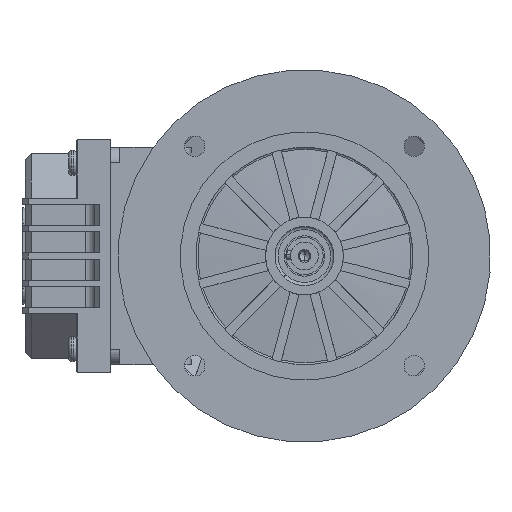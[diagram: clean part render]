
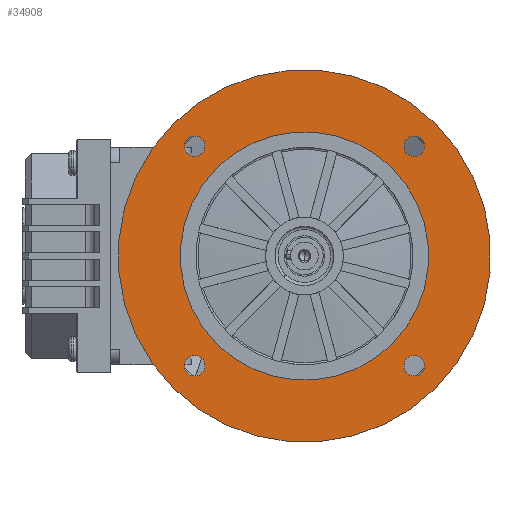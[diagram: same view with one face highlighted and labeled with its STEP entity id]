
A CAD part, left-side view. The second image highlights one B-rep face of the part: STEP entity #34908.
In plain terms, the highlighted planar face has unit normal (-1, 0, 0) as drawn and (0, -1, 0) by its records, which use the part's own axes.
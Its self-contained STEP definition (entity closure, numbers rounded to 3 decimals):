
#793 = EDGE_LOOP ( 'NONE', ( #22800, #13018 ) ) ;
#1058 = AXIS2_PLACEMENT_3D ( 'NONE', #78446, #39114, #85018 ) ;
#1369 = ORIENTED_EDGE ( 'NONE', *, *, #7743, .F. ) ;
#1709 = EDGE_CURVE ( 'NONE', #53227, #16167, #5702, .T. ) ;
#2034 = CARTESIAN_POINT ( 'NONE',  ( 50., 3., -3.3 ) ) ;
#2039 = FACE_OUTER_BOUND ( 'NONE', #38078, .T. ) ;
#2469 = DIRECTION ( 'NONE',  ( 0., -1., 0. ) ) ;
#2538 = CARTESIAN_POINT ( 'NONE',  ( 0., 3., -50. ) ) ;
#4644 = DIRECTION ( 'NONE',  ( 0., -1., 0. ) ) ;
#5702 = CIRCLE ( 'NONE', #52868, 3.3 ) ;
#6057 = CARTESIAN_POINT ( 'NONE',  ( 40., 3., 0. ) ) ;
#6866 = CARTESIAN_POINT ( 'NONE',  ( 0., 3., 40. ) ) ;
#7010 = DIRECTION ( 'NONE',  ( 0., -1., 0. ) ) ;
#7604 = CIRCLE ( 'NONE', #78475, 3.3 ) ;
#7743 = EDGE_CURVE ( 'NONE', #57872, #16473, #32573, .T. ) ;
#9166 = DIRECTION ( 'NONE',  ( 0., 0., -1. ) ) ;
#9351 = DIRECTION ( 'NONE',  ( 0., -1., 0. ) ) ;
#9832 = CARTESIAN_POINT ( 'NONE',  ( 0., 3., 0. ) ) ;
#11298 = AXIS2_PLACEMENT_3D ( 'NONE', #6057, #18973, #51978 ) ;
#11768 = EDGE_CURVE ( 'NONE', #77662, #58203, #81244, .T. ) ;
#12950 = AXIS2_PLACEMENT_3D ( 'NONE', #59618, #20215, #66254 ) ;
#12983 = CARTESIAN_POINT ( 'NONE',  ( 50., 3., 0. ) ) ;
#13018 = ORIENTED_EDGE ( 'NONE', *, *, #66860, .F. ) ;
#13069 = VERTEX_POINT ( 'NONE', #44481 ) ;
#14331 = AXIS2_PLACEMENT_3D ( 'NONE', #62767, #23354, #69372 ) ;
#14721 = CARTESIAN_POINT ( 'NONE',  ( 0., 3., -60. ) ) ;
#14911 = ORIENTED_EDGE ( 'NONE', *, *, #11768, .T. ) ;
#15467 = ORIENTED_EDGE ( 'NONE', *, *, #41176, .F. ) ;
#15843 = CARTESIAN_POINT ( 'NONE',  ( 50., 3., 3.3 ) ) ;
#16167 = VERTEX_POINT ( 'NONE', #2034 ) ;
#16402 = DIRECTION ( 'NONE',  ( 0., 0., -1. ) ) ;
#16473 = VERTEX_POINT ( 'NONE', #45063 ) ;
#18055 = ORIENTED_EDGE ( 'NONE', *, *, #39516, .F. ) ;
#18817 = CARTESIAN_POINT ( 'NONE',  ( 0., 3., -46.7 ) ) ;
#18973 = DIRECTION ( 'NONE',  ( 0., -1., 0. ) ) ;
#19478 = FACE_BOUND ( 'NONE', #793, .T. ) ;
#19537 = DIRECTION ( 'NONE',  ( 0., 0., -1. ) ) ;
#20215 = DIRECTION ( 'NONE',  ( 0., -1., 0. ) ) ;
#20256 = EDGE_LOOP ( 'NONE', ( #21705, #1369 ) ) ;
#21480 = EDGE_CURVE ( 'NONE', #85209, #54812, #38021, .T. ) ;
#21705 = ORIENTED_EDGE ( 'NONE', *, *, #68980, .F. ) ;
#21913 = CARTESIAN_POINT ( 'NONE',  ( -50., 3., -3.3 ) ) ;
#22437 = ORIENTED_EDGE ( 'NONE', *, *, #24587, .F. ) ;
#22800 = ORIENTED_EDGE ( 'NONE', *, *, #1709, .F. ) ;
#23318 = CIRCLE ( 'NONE', #37141, 40. ) ;
#23354 = DIRECTION ( 'NONE',  ( 0., -1., 0. ) ) ;
#24213 = CARTESIAN_POINT ( 'NONE',  ( 0., 3., 46.7 ) ) ;
#24587 = EDGE_CURVE ( 'NONE', #54812, #85209, #23318, .T. ) ;
#26677 = EDGE_CURVE ( 'NONE', #83564, #13069, #70228, .T. ) ;
#26749 = VERTEX_POINT ( 'NONE', #55678 ) ;
#27102 = CIRCLE ( 'NONE', #1058, 3.3 ) ;
#28976 = ORIENTED_EDGE ( 'NONE', *, *, #26677, .F. ) ;
#29821 = AXIS2_PLACEMENT_3D ( 'NONE', #9832, #55774, #16402 ) ;
#30782 = EDGE_LOOP ( 'NONE', ( #72912, #22437 ) ) ;
#32573 = CIRCLE ( 'NONE', #74146, 3.3 ) ;
#32737 = AXIS2_PLACEMENT_3D ( 'NONE', #2538, #48494, #9166 ) ;
#33029 = CIRCLE ( 'NONE', #12950, 3.3 ) ;
#33345 = CARTESIAN_POINT ( 'NONE',  ( 50., 3., 0. ) ) ;
#34908 = ADVANCED_FACE ( 'NONE', ( #71916, #52364, #19478, #37000, #2039, #34935 ), #84736, .T. ) ;
#34935 = FACE_BOUND ( 'NONE', #30782, .T. ) ;
#35392 = CARTESIAN_POINT ( 'NONE',  ( 0., 3., 60. ) ) ;
#36635 = CIRCLE ( 'NONE', #41896, 3.3 ) ;
#36975 = CARTESIAN_POINT ( 'NONE',  ( 0., 3., -50. ) ) ;
#37000 = FACE_BOUND ( 'NONE', #20256, .T. ) ;
#37141 = AXIS2_PLACEMENT_3D ( 'NONE', #48661, #9351, #55269 ) ;
#38021 = CIRCLE ( 'NONE', #14331, 40. ) ;
#38078 = EDGE_LOOP ( 'NONE', ( #77716, #14911 ) ) ;
#39114 = DIRECTION ( 'NONE',  ( 0., -1., 0. ) ) ;
#39516 = EDGE_CURVE ( 'NONE', #26749, #80006, #27102, .T. ) ;
#39963 = DIRECTION ( 'NONE',  ( 0., 0., -1. ) ) ;
#41176 = EDGE_CURVE ( 'NONE', #80006, #26749, #33029, .T. ) ;
#41826 = CARTESIAN_POINT ( 'NONE',  ( 0., 3., 50. ) ) ;
#41896 = AXIS2_PLACEMENT_3D ( 'NONE', #36975, #82931, #43600 ) ;
#43600 = DIRECTION ( 'NONE',  ( 0., 0., -1. ) ) ;
#44016 = CARTESIAN_POINT ( 'NONE',  ( 0., 3., 0. ) ) ;
#44481 = CARTESIAN_POINT ( 'NONE',  ( 0., 3., -53.3 ) ) ;
#45063 = CARTESIAN_POINT ( 'NONE',  ( 0., 3., 53.3 ) ) ;
#46382 = CARTESIAN_POINT ( 'NONE',  ( 0., 3., 50. ) ) ;
#47528 = CIRCLE ( 'NONE', #29821, 60. ) ;
#48205 = EDGE_LOOP ( 'NONE', ( #18055, #15467 ) ) ;
#48429 = DIRECTION ( 'NONE',  ( 0., 0., -1. ) ) ;
#48494 = DIRECTION ( 'NONE',  ( 0., -1., 0. ) ) ;
#48661 = CARTESIAN_POINT ( 'NONE',  ( 0., 3., 0. ) ) ;
#49181 = AXIS2_PLACEMENT_3D ( 'NONE', #12983, #58905, #19537 ) ;
#50578 = DIRECTION ( 'NONE',  ( 0., 0., -1. ) ) ;
#51978 = DIRECTION ( 'NONE',  ( 0., 0., -1. ) ) ;
#52364 = FACE_BOUND ( 'NONE', #53875, .T. ) ;
#52868 = AXIS2_PLACEMENT_3D ( 'NONE', #33345, #79314, #39963 ) ;
#52952 = DIRECTION ( 'NONE',  ( 0., 0., -1. ) ) ;
#53227 = VERTEX_POINT ( 'NONE', #15843 ) ;
#53875 = EDGE_LOOP ( 'NONE', ( #28976, #61607 ) ) ;
#54812 = VERTEX_POINT ( 'NONE', #6866 ) ;
#55022 = EDGE_CURVE ( 'NONE', #13069, #83564, #36635, .T. ) ;
#55269 = DIRECTION ( 'NONE',  ( 0., 0., -1. ) ) ;
#55678 = CARTESIAN_POINT ( 'NONE',  ( -50., 3., 3.3 ) ) ;
#55774 = DIRECTION ( 'NONE',  ( 0., -1., 0. ) ) ;
#57872 = VERTEX_POINT ( 'NONE', #24213 ) ;
#58203 = VERTEX_POINT ( 'NONE', #14721 ) ;
#58905 = DIRECTION ( 'NONE',  ( 0., -1., 0. ) ) ;
#59618 = CARTESIAN_POINT ( 'NONE',  ( -50., 3., 0. ) ) ;
#61607 = ORIENTED_EDGE ( 'NONE', *, *, #55022, .F. ) ;
#62767 = CARTESIAN_POINT ( 'NONE',  ( 0., 3., 0. ) ) ;
#66097 = AXIS2_PLACEMENT_3D ( 'NONE', #44016, #4644, #50578 ) ;
#66254 = DIRECTION ( 'NONE',  ( 0., 0., -1. ) ) ;
#66860 = EDGE_CURVE ( 'NONE', #16167, #53227, #82914, .T. ) ;
#68980 = EDGE_CURVE ( 'NONE', #16473, #57872, #7604, .T. ) ;
#69372 = DIRECTION ( 'NONE',  ( 0., 0., -1. ) ) ;
#70228 = CIRCLE ( 'NONE', #32737, 3.3 ) ;
#71916 = FACE_BOUND ( 'NONE', #48205, .T. ) ;
#72912 = ORIENTED_EDGE ( 'NONE', *, *, #21480, .F. ) ;
#74146 = AXIS2_PLACEMENT_3D ( 'NONE', #46382, #7010, #52952 ) ;
#77662 = VERTEX_POINT ( 'NONE', #35392 ) ;
#77716 = ORIENTED_EDGE ( 'NONE', *, *, #82943, .T. ) ;
#78446 = CARTESIAN_POINT ( 'NONE',  ( -50., 3., 0. ) ) ;
#78475 = AXIS2_PLACEMENT_3D ( 'NONE', #41826, #2469, #48429 ) ;
#79314 = DIRECTION ( 'NONE',  ( 0., -1., 0. ) ) ;
#80006 = VERTEX_POINT ( 'NONE', #21913 ) ;
#81244 = CIRCLE ( 'NONE', #66097, 60. ) ;
#82914 = CIRCLE ( 'NONE', #49181, 3.3 ) ;
#82931 = DIRECTION ( 'NONE',  ( 0., -1., 0. ) ) ;
#82943 = EDGE_CURVE ( 'NONE', #58203, #77662, #47528, .T. ) ;
#83316 = CARTESIAN_POINT ( 'NONE',  ( 0., 3., -40. ) ) ;
#83564 = VERTEX_POINT ( 'NONE', #18817 ) ;
#84736 = PLANE ( 'NONE',  #11298 ) ;
#85018 = DIRECTION ( 'NONE',  ( 0., 0., -1. ) ) ;
#85209 = VERTEX_POINT ( 'NONE', #83316 ) ;
